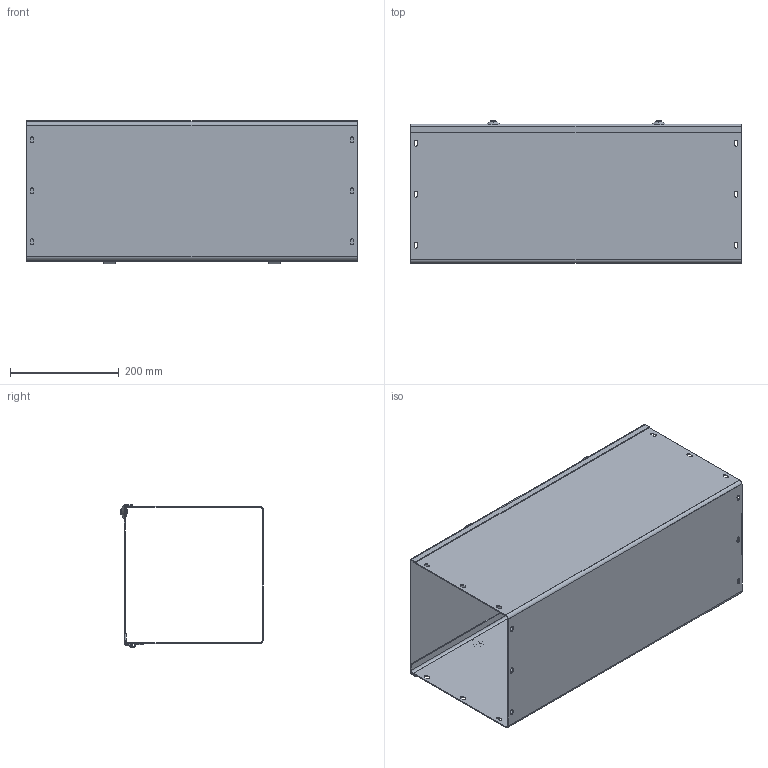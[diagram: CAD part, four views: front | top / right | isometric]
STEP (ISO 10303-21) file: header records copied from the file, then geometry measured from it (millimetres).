
FILE_DESCRIPTION((''),'1');
FILE_NAME('17','2001-04-18T',('jlue'),(''),'PRO/ENGINEER BY PARAMETRIC TECHNOLOGY CORPORATION, 9846','PRO/ENGINEER BY PARAMETRIC TECHNOLOGY CORPORATION, 9846','');
FILE_SCHEMA(('CONFIG_CONTROL_DESIGN'));
Length unit declared in the file: inch
Products named in the file (1): 17
Bounding box: 609.6 x 262.36 x 264 mm (x, y, z)
Surface area: 1277674.5 mm2 (no closed solid volume)
Topology: 0 solids, 0 shells, 219 faces, 1189 edges, 1194 vertices
Faces by surface type: plane 127, cylinder 76, cone 8, bspline 8
Entity records: 6167 total; most frequent: DIRECTION 1199, COMPOSITE_CURVE_SEGMENT 1184, CARTESIAN_POINT 1032, TRIMMED_CURVE 597, VECTOR 417, LINE 417, AXIS2_PLACEMENT_3D 391, CURVE_BOUNDED_SURFACE 219
